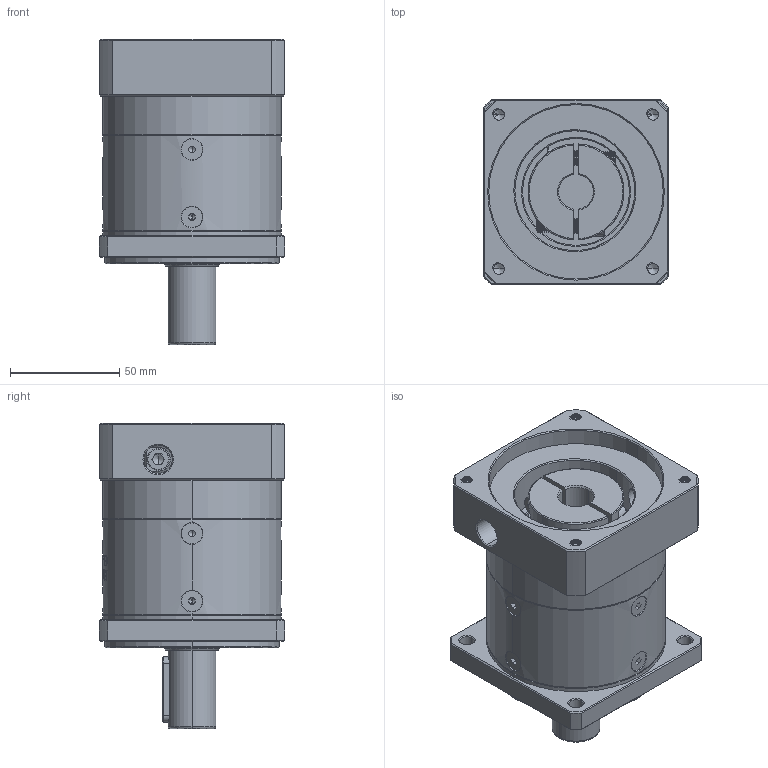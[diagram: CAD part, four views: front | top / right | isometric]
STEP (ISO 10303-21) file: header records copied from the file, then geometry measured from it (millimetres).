
FILE_DESCRIPTION (( 'STEP AP214' ), '1' );
FILE_NAME ('ZF080-D22-L1-P2-16-80-100-M6.step', '2023-08-19T05:31:18', ( '' ), ( '' ), 'SwSTEP 2.0', 'SolidWorks 2016', '' );
FILE_SCHEMA (( 'AUTOMOTIVE_DESIGN' ));
Length unit declared in the file: millimetre
Products named in the file (1): ZF080-D22-L1-P2-16-80-100-M6
Bounding box: 85 x 85 x 140 mm (x, y, z)
Volume: 538309.7 mm3; surface area: 89085.3 mm2
Topology: 13 solids, 13 shells, 2230 faces, 5833 edges, 3702 vertices
Faces by surface type: plane 1071, bspline 394, cylinder 390, cone 338, torus 37
Entity records: 119059 total; most frequent: CARTESIAN_POINT 44756, ORIENTED_EDGE 11606, DIRECTION 8605, EDGE_CURVE 5803, VERTEX_POINT 3702, LINE 3087, VECTOR 3087, AXIS2_PLACEMENT_3D 2759
